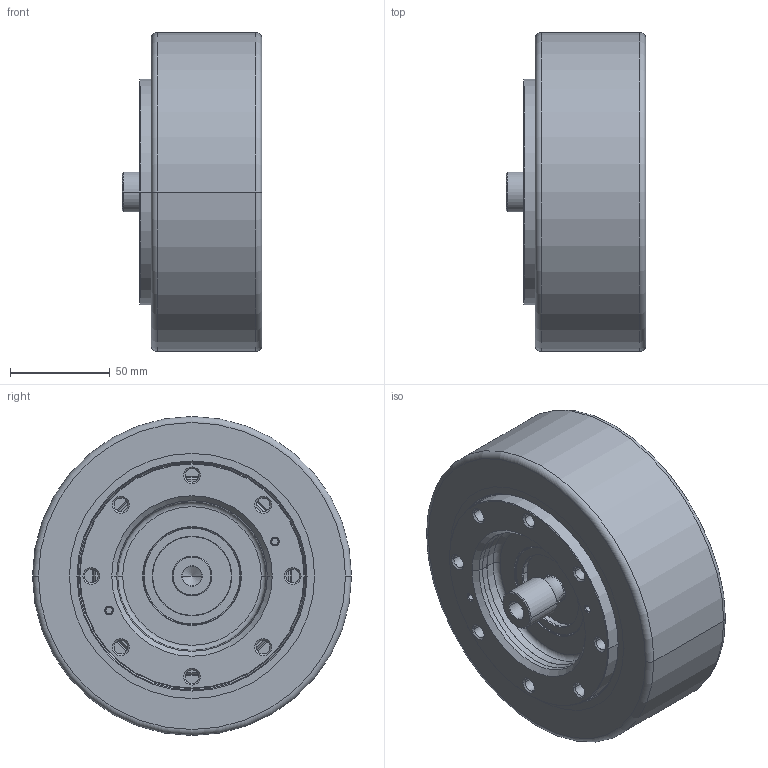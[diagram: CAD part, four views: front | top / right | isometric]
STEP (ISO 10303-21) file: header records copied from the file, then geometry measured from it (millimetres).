
FILE_DESCRIPTION((''),'2;1');
FILE_NAME('IMS250_DRIVE_LN_ASM','2023-07-27T09:01:14',('mhummel'),(''),'CREO PARAMETRIC BY PTC INC, 2020184','CREO PARAMETRIC BY PTC INC, 2020184','');
FILE_SCHEMA(('AUTOMOTIVE_DESIGN { 1 0 10303 214 1 1 1 1 }'));
Length unit declared in the file: millimetre
Products named in the file (11): IMS250_DRIVE_LN_GEAR_RING; IMS250_DRIVE_LN_WHEEL_CARRIER; IMS250_DRIVE_LN_BASE_WHEEL_1; IMS250_DRIVE_LN_BASE_WHEEL_2; IMS250_DRIVE_LN_WHEEL_ASM; IMS250_DRIVE_LN_SCREW; IMS250_DRIVE_LN_SEAL_RING; IMS250_DRIVE_LN_THRUST_WASHER; IMS250_DRIVE_LN_MO_PINION_LONG; IMS250_DRIVE_LN_MO_PINION_SHORT; IMS250_DRIVE_LN_ASM
Assembly tree (15 placements, depth 3):
  IMS250_DRIVE_LN_ASM
    IMS250_DRIVE_LN_GEAR_RING
    IMS250_DRIVE_LN_WHEEL_CARRIER
    IMS250_DRIVE_LN_WHEEL_ASM
      IMS250_DRIVE_LN_BASE_WHEEL_1
      IMS250_DRIVE_LN_BASE_WHEEL_2
    IMS250_DRIVE_LN_SCREW  x6
    IMS250_DRIVE_LN_SEAL_RING
    IMS250_DRIVE_LN_THRUST_WASHER
    IMS250_DRIVE_LN_MO_PINION_LONG
    IMS250_DRIVE_LN_MO_PINION_SHORT
Bounding box: 70.05 x 160 x 160 mm (x, y, z)
Volume: 999650.7 mm3; surface area: 207381.4 mm2
Topology: 14 solids, 14 shells, 434 faces, 922 edges, 545 vertices
Faces by surface type: cylinder 156, cone 128, plane 100, torus 50
Entity records: 12182 total; most frequent: DIRECTION 1908, CARTESIAN_POINT 1550, ORIENTED_EDGE 1436, AXIS2_PLACEMENT_3D 818, PRESENTATION_STYLE_ASSIGNMENT 727, STYLED_ITEM 727, CURVE_STYLE 718, EDGE_CURVE 718
